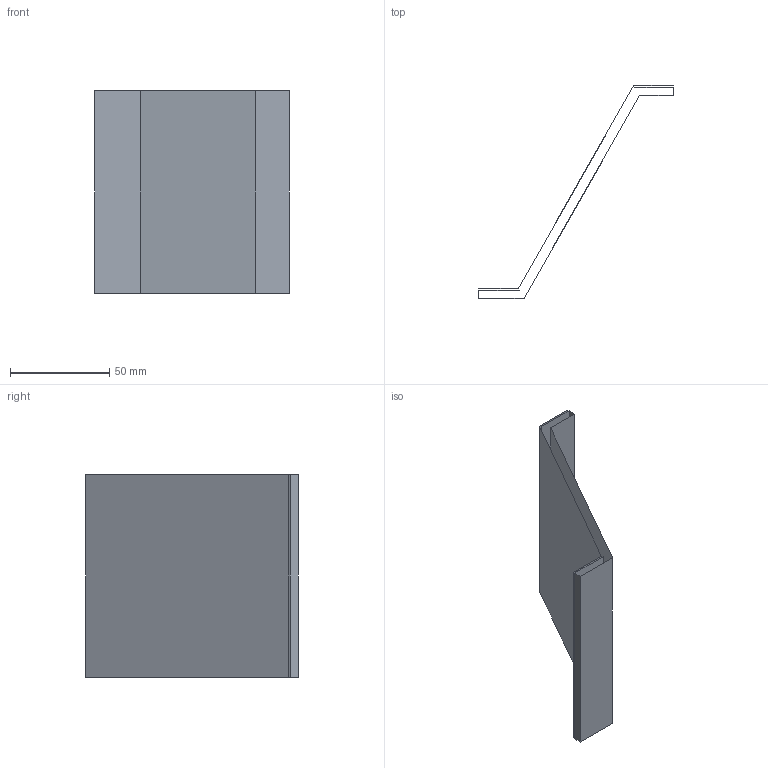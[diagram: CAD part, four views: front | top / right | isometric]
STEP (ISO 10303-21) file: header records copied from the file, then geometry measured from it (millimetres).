
FILE_DESCRIPTION(('CATIA V5 STEP Exchange'),'2;1');
FILE_NAME('C:\_Andres\UNIVERSIDAD\IQS\ASIGNATURAS\DAO\EXF\EXF-16172c\2inicio\Barrenechea_Bonifacio_Ej06_v2.stp','2017-03-05T21:01:21+00:00',('none'),('none'),'CATIA Version 5-6 Release 2014 SP1 HF18','CATIA V5 STEP AP203','none');
FILE_SCHEMA(('CONFIG_CONTROL_DESIGN'));
Length unit declared in the file: millimetre
Products named in the file (1): Barrenechea_Bonifacio_Ej06_v2
Bounding box: 98 x 107 x 102 mm (x, y, z)
Surface area: 36992.8 mm2 (no closed solid volume)
Topology: 0 solids, 2 shells, 10 faces, 42 edges, 36 vertices
Faces by surface type: plane 10
Entity records: 461 total; most frequent: CARTESIAN_POINT 100, DIRECTION 59, ORIENTED_EDGE 40, VECTOR 39, LINE 39, EDGE_CURVE 32, VERTEX_POINT 24, AXIS2_PLACEMENT_3D 11
